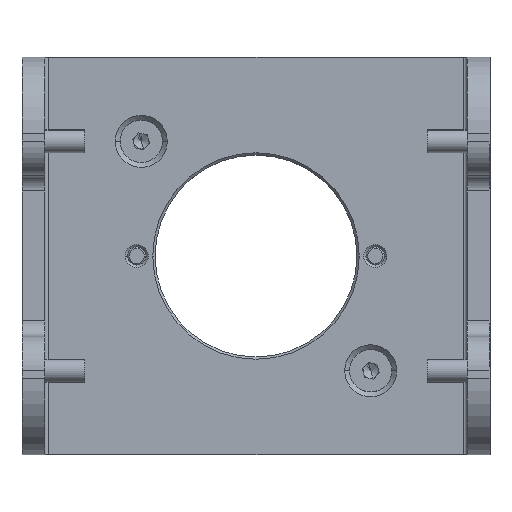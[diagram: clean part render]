
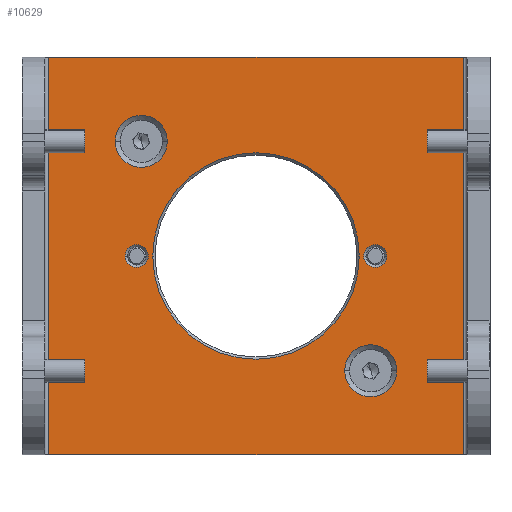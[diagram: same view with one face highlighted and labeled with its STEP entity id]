
A CAD part, top view. The second image highlights one B-rep face of the part: STEP entity #10629.
In plain terms, the highlighted planar face has unit normal (0, 0, 1).
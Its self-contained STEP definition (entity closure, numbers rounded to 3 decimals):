
#136 = AXIS2_PLACEMENT_3D ( 'NONE', #10861, #8941, #350 ) ;
#157 = VERTEX_POINT ( 'NONE', #11145 ) ;
#217 = FACE_BOUND ( 'NONE', #11278, .T. ) ;
#350 = DIRECTION ( 'NONE',  ( -1., 0., 0. ) ) ;
#351 = AXIS2_PLACEMENT_3D ( 'NONE', #577, #1631, #631 ) ;
#474 = CARTESIAN_POINT ( 'NONE',  ( -14.1, 0., 0. ) ) ;
#577 = CARTESIAN_POINT ( 'NONE',  ( 15.6, 0., 0. ) ) ;
#619 = CARTESIAN_POINT ( 'NONE',  ( 14.1, 0., 0. ) ) ;
#631 = DIRECTION ( 'NONE',  ( -1., 0., 0. ) ) ;
#636 = VERTEX_POINT ( 'NONE', #4004 ) ;
#669 = LINE ( 'NONE', #2385, #4420 ) ;
#678 = VERTEX_POINT ( 'NONE', #619 ) ;
#758 = DIRECTION ( 'NONE',  ( -1., 0., 0. ) ) ;
#781 = VERTEX_POINT ( 'NONE', #11988 ) ;
#866 = VECTOR ( 'NONE', #8565, 1000. ) ;
#1087 = DIRECTION ( 'NONE',  ( 0., 0., 1. ) ) ;
#1091 = EDGE_LOOP ( 'NONE', ( #6156, #10801 ) ) ;
#1277 = EDGE_CURVE ( 'NONE', #2578, #6942, #4476, .T. ) ;
#1284 = AXIS2_PLACEMENT_3D ( 'NONE', #5408, #2303, #8060 ) ;
#1294 = FACE_BOUND ( 'NONE', #8242, .T. ) ;
#1372 = CARTESIAN_POINT ( 'NONE',  ( -15.6, 0., 0. ) ) ;
#1495 = VERTEX_POINT ( 'NONE', #11237 ) ;
#1631 = DIRECTION ( 'NONE',  ( 0., 0., -1. ) ) ;
#1664 = ORIENTED_EDGE ( 'NONE', *, *, #3129, .F. ) ;
#1832 = DIRECTION ( 'NONE',  ( 0., 0., -1. ) ) ;
#1926 = AXIS2_PLACEMENT_3D ( 'NONE', #4606, #2745, #10177 ) ;
#2303 = DIRECTION ( 'NONE',  ( 0., 0., 1. ) ) ;
#2350 = CARTESIAN_POINT ( 'NONE',  ( -17.1, 0., 0. ) ) ;
#2385 = CARTESIAN_POINT ( 'NONE',  ( -27.6, 26., 0. ) ) ;
#2545 = DIRECTION ( 'NONE',  ( 0., 0., -1. ) ) ;
#2557 = DIRECTION ( 'NONE',  ( 1., 0., 0. ) ) ;
#2578 = VERTEX_POINT ( 'NONE', #8923 ) ;
#2664 = VERTEX_POINT ( 'NONE', #2350 ) ;
#2722 = DIRECTION ( 'NONE',  ( 1., 0., 0. ) ) ;
#2745 = DIRECTION ( 'NONE',  ( 0., 0., -1. ) ) ;
#3065 = VERTEX_POINT ( 'NONE', #5581 ) ;
#3129 = EDGE_CURVE ( 'NONE', #11086, #157, #8688, .T. ) ;
#3133 = DIRECTION ( 'NONE',  ( 0., 0., -1. ) ) ;
#3179 = FACE_BOUND ( 'NONE', #1091, .T. ) ;
#3225 = CIRCLE ( 'NONE', #4608, 3.4 ) ;
#3235 = ORIENTED_EDGE ( 'NONE', *, *, #10677, .T. ) ;
#3459 = CARTESIAN_POINT ( 'NONE',  ( -27.6, -26., 0. ) ) ;
#3493 = EDGE_CURVE ( 'NONE', #3065, #1495, #8091, .T. ) ;
#3815 = VECTOR ( 'NONE', #6344, 1000. ) ;
#3825 = LINE ( 'NONE', #11385, #9632 ) ;
#4004 = CARTESIAN_POINT ( 'NONE',  ( -13.5, 0., 0. ) ) ;
#4420 = VECTOR ( 'NONE', #8994, 1000. ) ;
#4457 = ORIENTED_EDGE ( 'NONE', *, *, #10359, .T. ) ;
#4476 = LINE ( 'NONE', #8500, #866 ) ;
#4569 = CIRCLE ( 'NONE', #9380, 3.4 ) ;
#4606 = CARTESIAN_POINT ( 'NONE',  ( 0., 0., 0. ) ) ;
#4608 = AXIS2_PLACEMENT_3D ( 'NONE', #11471, #1087, #2722 ) ;
#4634 = CARTESIAN_POINT ( 'NONE',  ( -15.6, 0., 0. ) ) ;
#4690 = ORIENTED_EDGE ( 'NONE', *, *, #12292, .F. ) ;
#5018 = AXIS2_PLACEMENT_3D ( 'NONE', #4634, #1832, #758 ) ;
#5111 = FACE_OUTER_BOUND ( 'NONE', #10186, .T. ) ;
#5248 = DIRECTION ( 'NONE',  ( 0., 0., -1. ) ) ;
#5256 = EDGE_CURVE ( 'NONE', #2664, #8981, #6315, .T. ) ;
#5379 = EDGE_CURVE ( 'NONE', #7978, #636, #10704, .T. ) ;
#5408 = CARTESIAN_POINT ( 'NONE',  ( 15., -15., 0. ) ) ;
#5556 = CIRCLE ( 'NONE', #351, 1.5 ) ;
#5581 = CARTESIAN_POINT ( 'NONE',  ( 18.4, -15., 0. ) ) ;
#5616 = ORIENTED_EDGE ( 'NONE', *, *, #5256, .T. ) ;
#6057 = PLANE ( 'NONE',  #136 ) ;
#6156 = ORIENTED_EDGE ( 'NONE', *, *, #10802, .T. ) ;
#6315 = CIRCLE ( 'NONE', #9512, 1.5 ) ;
#6344 = DIRECTION ( 'NONE',  ( 1., 0., 0. ) ) ;
#6348 = AXIS2_PLACEMENT_3D ( 'NONE', #6418, #2545, #9297 ) ;
#6418 = CARTESIAN_POINT ( 'NONE',  ( 0., 0., 0. ) ) ;
#6934 = FACE_BOUND ( 'NONE', #10687, .T. ) ;
#6942 = VERTEX_POINT ( 'NONE', #11593 ) ;
#6951 = DIRECTION ( 'NONE',  ( -1., 0., 0. ) ) ;
#7033 = CIRCLE ( 'NONE', #5018, 1.5 ) ;
#7118 = FACE_BOUND ( 'NONE', #8210, .T. ) ;
#7250 = CARTESIAN_POINT ( 'NONE',  ( 15., -15., 0. ) ) ;
#7307 = DIRECTION ( 'NONE',  ( 0., 0., 1. ) ) ;
#7783 = CARTESIAN_POINT ( 'NONE',  ( 27.1, 26., 0. ) ) ;
#7965 = ORIENTED_EDGE ( 'NONE', *, *, #3493, .F. ) ;
#7978 = VERTEX_POINT ( 'NONE', #11666 ) ;
#8060 = DIRECTION ( 'NONE',  ( 1., 0., 0. ) ) ;
#8091 = CIRCLE ( 'NONE', #1284, 3.4 ) ;
#8204 = DIRECTION ( 'NONE',  ( 1., 0., 0. ) ) ;
#8210 = EDGE_LOOP ( 'NONE', ( #12337, #3235 ) ) ;
#8242 = EDGE_LOOP ( 'NONE', ( #7965, #4690 ) ) ;
#8355 = CIRCLE ( 'NONE', #6348, 13.5 ) ;
#8470 = CIRCLE ( 'NONE', #10067, 1.5 ) ;
#8500 = CARTESIAN_POINT ( 'NONE',  ( -27.1, -26., 0. ) ) ;
#8565 = DIRECTION ( 'NONE',  ( 0., -1., 0. ) ) ;
#8688 = CIRCLE ( 'NONE', #12047, 3.4 ) ;
#8923 = CARTESIAN_POINT ( 'NONE',  ( -27.1, 26., 0. ) ) ;
#8929 = ORIENTED_EDGE ( 'NONE', *, *, #10418, .T. ) ;
#8941 = DIRECTION ( 'NONE',  ( 0., 0., -1. ) ) ;
#8948 = EDGE_CURVE ( 'NONE', #678, #11130, #8470, .T. ) ;
#8964 = ORIENTED_EDGE ( 'NONE', *, *, #1277, .T. ) ;
#8981 = VERTEX_POINT ( 'NONE', #474 ) ;
#8994 = DIRECTION ( 'NONE',  ( 1., 0., 0. ) ) ;
#9138 = DIRECTION ( 'NONE',  ( 0., 0., 1. ) ) ;
#9297 = DIRECTION ( 'NONE',  ( -1., 0., 0. ) ) ;
#9380 = AXIS2_PLACEMENT_3D ( 'NONE', #7250, #9138, #8204 ) ;
#9512 = AXIS2_PLACEMENT_3D ( 'NONE', #1372, #5248, #11862 ) ;
#9520 = EDGE_CURVE ( 'NONE', #2578, #10970, #669, .T. ) ;
#9632 = VECTOR ( 'NONE', #10518, 1000. ) ;
#9778 = EDGE_CURVE ( 'NONE', #6942, #781, #12005, .T. ) ;
#9916 = EDGE_CURVE ( 'NONE', #157, #11086, #3225, .T. ) ;
#9948 = CARTESIAN_POINT ( 'NONE',  ( 15.6, 0., 0. ) ) ;
#10067 = AXIS2_PLACEMENT_3D ( 'NONE', #9948, #3133, #6951 ) ;
#10177 = DIRECTION ( 'NONE',  ( -1., 0., 0. ) ) ;
#10186 = EDGE_LOOP ( 'NONE', ( #11158, #8929, #10337, #8964 ) ) ;
#10337 = ORIENTED_EDGE ( 'NONE', *, *, #9520, .F. ) ;
#10359 = EDGE_CURVE ( 'NONE', #8981, #2664, #7033, .T. ) ;
#10418 = EDGE_CURVE ( 'NONE', #781, #10970, #3825, .T. ) ;
#10518 = DIRECTION ( 'NONE',  ( 0., 1., 0. ) ) ;
#10553 = ORIENTED_EDGE ( 'NONE', *, *, #9916, .F. ) ;
#10629 = ADVANCED_FACE ( 'NONE', ( #217, #1294, #3179, #6934, #7118, #5111 ), #6057, .F. ) ;
#10677 = EDGE_CURVE ( 'NONE', #636, #7978, #8355, .T. ) ;
#10687 = EDGE_LOOP ( 'NONE', ( #4457, #5616 ) ) ;
#10704 = CIRCLE ( 'NONE', #1926, 13.5 ) ;
#10801 = ORIENTED_EDGE ( 'NONE', *, *, #8948, .T. ) ;
#10802 = EDGE_CURVE ( 'NONE', #11130, #678, #5556, .T. ) ;
#10861 = CARTESIAN_POINT ( 'NONE',  ( -27.6, 26., 0. ) ) ;
#10970 = VERTEX_POINT ( 'NONE', #7783 ) ;
#11086 = VERTEX_POINT ( 'NONE', #11416 ) ;
#11130 = VERTEX_POINT ( 'NONE', #11965 ) ;
#11145 = CARTESIAN_POINT ( 'NONE',  ( -18.4, 15., 0. ) ) ;
#11158 = ORIENTED_EDGE ( 'NONE', *, *, #9778, .T. ) ;
#11237 = CARTESIAN_POINT ( 'NONE',  ( 11.6, -15., 0. ) ) ;
#11278 = EDGE_LOOP ( 'NONE', ( #1664, #10553 ) ) ;
#11385 = CARTESIAN_POINT ( 'NONE',  ( 27.1, 26., 0. ) ) ;
#11416 = CARTESIAN_POINT ( 'NONE',  ( -11.6, 15., 0. ) ) ;
#11471 = CARTESIAN_POINT ( 'NONE',  ( -15., 15., 0. ) ) ;
#11593 = CARTESIAN_POINT ( 'NONE',  ( -27.1, -26., 0. ) ) ;
#11666 = CARTESIAN_POINT ( 'NONE',  ( 13.5, 0., 0. ) ) ;
#11862 = DIRECTION ( 'NONE',  ( -1., 0., 0. ) ) ;
#11965 = CARTESIAN_POINT ( 'NONE',  ( 17.1, 0., 0. ) ) ;
#11988 = CARTESIAN_POINT ( 'NONE',  ( 27.1, -26., 0. ) ) ;
#12005 = LINE ( 'NONE', #3459, #3815 ) ;
#12032 = CARTESIAN_POINT ( 'NONE',  ( -15., 15., 0. ) ) ;
#12047 = AXIS2_PLACEMENT_3D ( 'NONE', #12032, #7307, #2557 ) ;
#12292 = EDGE_CURVE ( 'NONE', #1495, #3065, #4569, .T. ) ;
#12337 = ORIENTED_EDGE ( 'NONE', *, *, #5379, .T. ) ;
